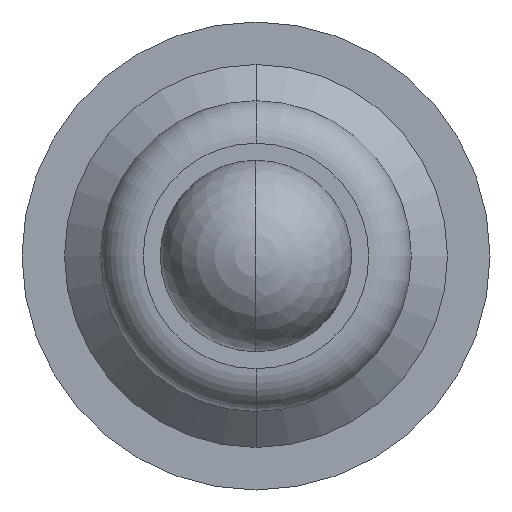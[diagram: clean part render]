
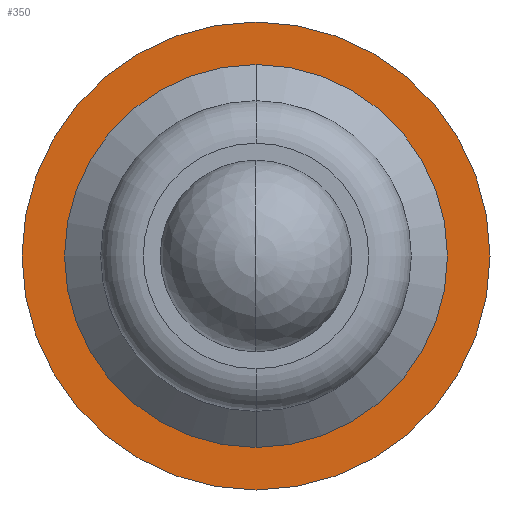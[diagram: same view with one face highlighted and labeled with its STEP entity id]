
A CAD part, left-side view. The second image highlights one B-rep face of the part: STEP entity #350.
In plain terms, the highlighted planar face has unit normal (-1, 0, 0).
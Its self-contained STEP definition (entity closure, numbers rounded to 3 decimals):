
#47=CARTESIAN_POINT('',(-1.7,0.,0.));
#48=DIRECTION('',(-1.,0.,0.));
#49=DIRECTION('',(0.,0.,-1.));
#50=AXIS2_PLACEMENT_3D('',#47,#48,#49);
#52=CARTESIAN_POINT('',(-1.7,0.,0.));
#53=DIRECTION('',(1.,0.,0.));
#54=DIRECTION('',(0.,0.,-1.));
#55=AXIS2_PLACEMENT_3D('',#52,#53,#54);
#57=CARTESIAN_POINT('',(-1.7,0.,0.));
#58=DIRECTION('',(1.,0.,0.));
#59=DIRECTION('',(0.,0.,-1.));
#60=AXIS2_PLACEMENT_3D('',#57,#58,#59);
#70=CARTESIAN_POINT('',(-1.7,0.,0.));
#71=DIRECTION('',(-1.,0.,0.));
#72=DIRECTION('',(0.,0.,-1.));
#73=AXIS2_PLACEMENT_3D('',#70,#71,#72);
#212=CARTESIAN_POINT('',(-1.7,0.,-1.1));
#214=VERTEX_POINT('',#212);
#215=CARTESIAN_POINT('',(-1.7,0.,-0.9));
#217=VERTEX_POINT('',#215);
#240=CARTESIAN_POINT('',(-1.7,0.,1.1));
#242=VERTEX_POINT('',#240);
#243=CARTESIAN_POINT('',(-1.7,0.,0.9));
#245=VERTEX_POINT('',#243);
#335=CARTESIAN_POINT('',(-1.7,0.,0.));
#336=DIRECTION('',(1.,0.,0.));
#337=DIRECTION('',(0.,0.,1.));
#338=AXIS2_PLACEMENT_3D('',#335,#336,#337);
#339=PLANE('',#338);
#340=ORIENTED_EDGE('',*,*,#328,.F.);
#341=ORIENTED_EDGE('',*,*,#317,.T.);
#342=EDGE_LOOP('',(#340,#341));
#343=FACE_OUTER_BOUND('',#342,.F.);
#345=ORIENTED_EDGE('',*,*,#344,.F.);
#347=ORIENTED_EDGE('',*,*,#346,.T.);
#348=EDGE_LOOP('',(#345,#347));
#349=FACE_BOUND('',#348,.F.);
#350=ADVANCED_FACE('',(#343,#349),#339,.F.);
#51=CIRCLE('',#50,1.1);
#56=CIRCLE('',#55,1.1);
#61=CIRCLE('',#60,0.9);
#74=CIRCLE('',#73,0.9);
#317=EDGE_CURVE('',#214,#242,#56,.T.);
#328=EDGE_CURVE('',#214,#242,#51,.T.);
#344=EDGE_CURVE('',#217,#245,#61,.T.);
#346=EDGE_CURVE('',#217,#245,#74,.T.);
